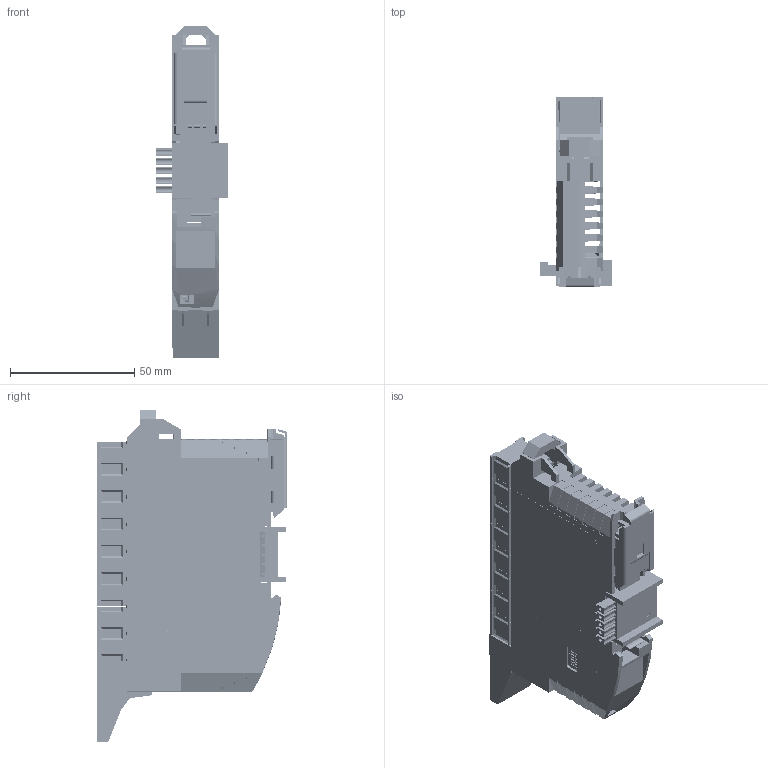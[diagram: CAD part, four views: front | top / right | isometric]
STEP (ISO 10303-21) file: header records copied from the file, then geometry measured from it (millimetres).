
FILE_DESCRIPTION(/* description */ (''),/* implementation_level */ '2;1');
FILE_NAME(/* name */ 'C:/Temp/STEP/FdxCompact_DOOC-16-C.step',/* time_stamp */ '2020-04-03T13:43:40+03:00',/* author */ (''),/* organization */ (''),/* preprocessor_version */ 'ST-DEVELOPER v18',/* originating_system */ 'Autodesk Translation Framework v8.12.0.6',/* authorisation */ '');
FILE_SCHEMA (('AUTOMOTIVE_DESIGN { 1 0 10303 214 3 1 1 }'));
Products named in the file (1): FdxCompact_DOOC-16-C
Bounding box: 29.2 x 76.5 x 133.55 mm (x, y, z)
Volume: 60837.3 mm3; surface area: 85686.8 mm2
Topology: 391 solids, 395 shells, 10793 faces, 29164 edges, 19393 vertices
Faces by surface type: plane 8305, cylinder 1400, bspline 907, cone 116, sphere 33, torus 32
Full cylindrical faces by diameter (mm): 0.62 x1, 1 x19, 1.2 x32, 1.3 x32, 1.6 x10
Entity records: 479065 total; most frequent: CARTESIAN_POINT 199774, ORIENTED_EDGE 58112, DIRECTION 50169, EDGE_CURVE 29132, LINE 23365, VECTOR 23365, VERTEX_POINT 19393, AXIS2_PLACEMENT_3D 13402
